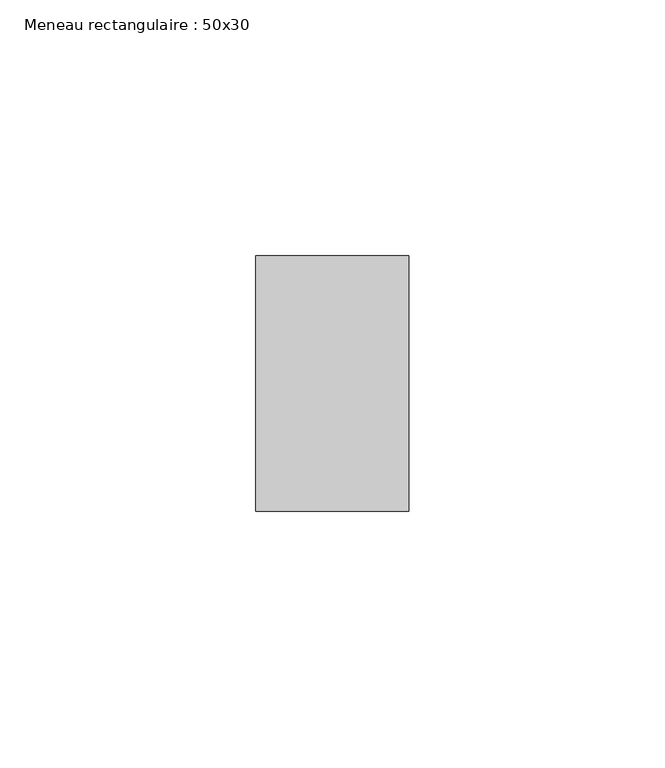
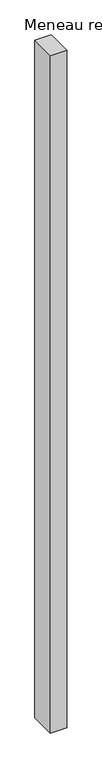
"""IFC4 building model written with IfcOpenShell, lengths in millimetres: member geometry, Meneau rectangulaire : 50x30."""

from ifc_helpers import new_model, si_unit, frame, origin, place, context, project, spatial, polyline, outline, extrude, source, transform, mapped, element, save


def meneau_rectangulaire_50x30_b80c5fd5(model_context):
    return source(origin(), model_context, "Body", "SweptSolid", [
        extrude(outline(polyline([(15.0, 0.0), (15.0, -50.0), (-15.0, -50.0), (-15.0, 0.0), (15.0, 0.0)])), frame((0.0, 0.0, -1329.2667148), z_axis=(0.0, 0.0, 1.0), x_axis=(1.0, 0.0, 0.0)), (0.0, 0.0, 1.0), 1329.2667148),
    ])


if __name__ == "__main__":
    model = new_model("IFC4")
    model_context = context("Model", 3, world=origin())
    ifc_project = project(units=[si_unit("LENGTHUNIT", "METRE", prefix="MILLI")], contexts=[model_context])
    site = spatial("IfcSite", under=ifc_project)
    building = spatial("IfcBuilding", under=site)
    placement = place(None, origin())
    meneau_rectangulaire_50x30_shape = meneau_rectangulaire_50x30_b80c5fd5(model_context)
    element("IfcMember", 1, ObjectType="Meneau rectangulaire : 50x30", at=placement, inside=building, context=model_context, shape_type="MappedRepresentation", body=[
        mapped(meneau_rectangulaire_50x30_shape, transform((0.0, 0.0, 0.0), x_axis=(1.0, 0.0, 0.0), y_axis=(0.0, 1.0, 0.0), z_axis=(0.0, 0.0, 1.0))),
    ])
    save(model, "model.ifc")
